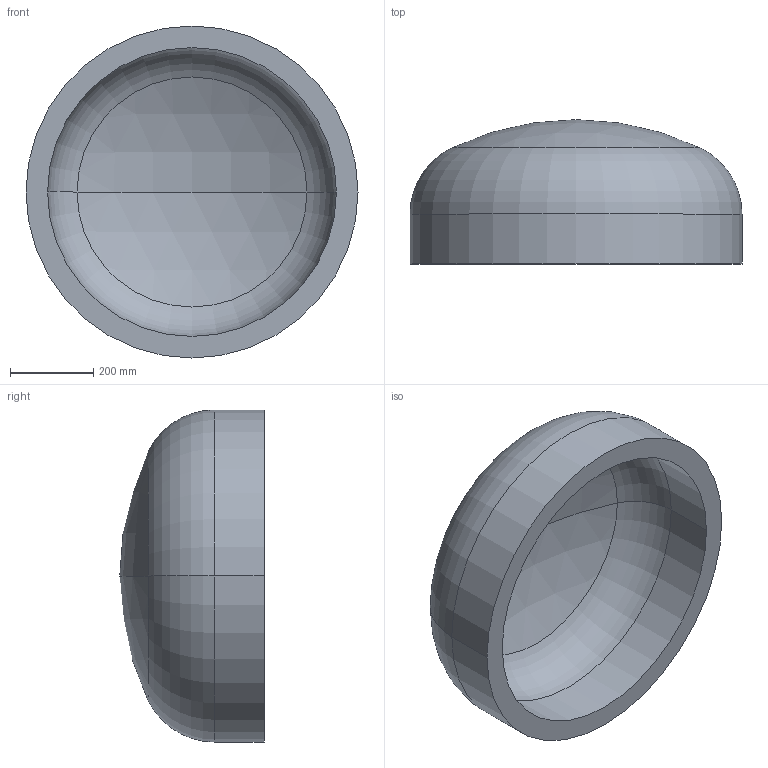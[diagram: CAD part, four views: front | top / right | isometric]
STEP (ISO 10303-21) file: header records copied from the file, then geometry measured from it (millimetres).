
FILE_DESCRIPTION (( 'STEP AP203' ), '1' );
FILE_NAME ('DIN 28013 Korbbogenform_-_Boden DIN 28013 - 800 x 120 - I - s=52.step', '2016-07-01T08:18:32', ( '' ), ( '' ), 'SwSTEP 2.0', 'SolidWorks 2013', '' );
FILE_SCHEMA (( 'CONFIG_CONTROL_DESIGN' ));
Length unit declared in the file: millimetre
Products named in the file (1): DIN 28013 Korbbogenform_-_Boden DIN 28013 - 800 x 120 - I - s=52
Bounding box: 800 x 347.78 x 800 mm (x, y, z)
Volume: 48097588.2 mm3; surface area: 1977765.5 mm2
Topology: 1 solids, 1 shells, 13 faces, 24 edges, 14 vertices
Faces by surface type: torus 4, cylinder 4, sphere 4, plane 1
Entity records: 407 total; most frequent: DIRECTION 72, CARTESIAN_POINT 52, ORIENTED_EDGE 48, AXIS2_PLACEMENT_3D 34, EDGE_CURVE 24, CIRCLE 20, EDGE_LOOP 14, VERTEX_POINT 14
